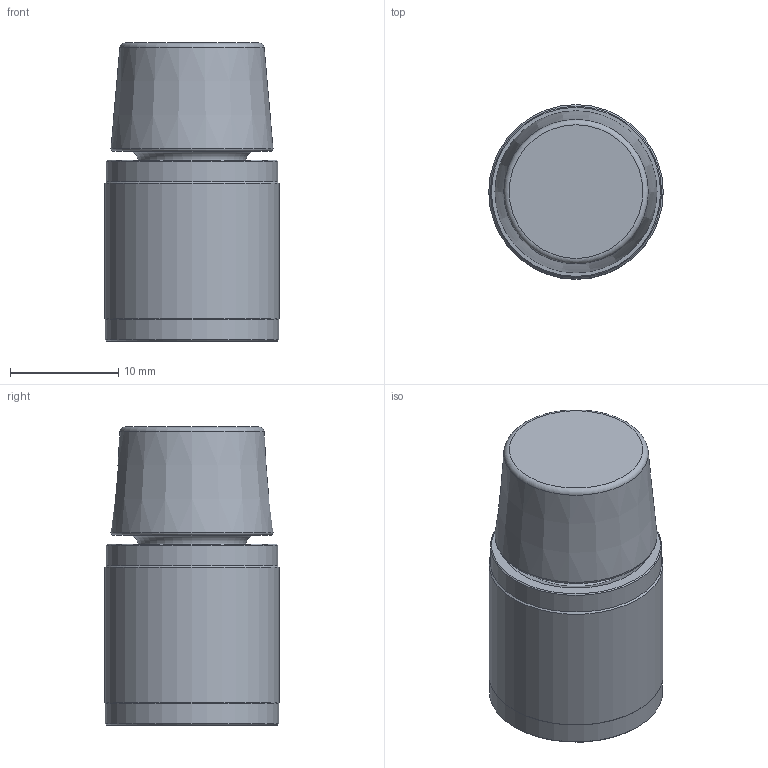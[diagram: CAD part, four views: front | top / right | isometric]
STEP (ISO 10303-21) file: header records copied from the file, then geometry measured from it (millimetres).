
FILE_DESCRIPTION(/* description */ (''),/* implementation_level */ '2;1');
FILE_NAME(/* name */ '\\DATASERVER\data\Flamco\3D-Modellen\Inventor\Flexvent\Flexvent beuchtingsstopper\27755_flexvent_dfa.stp',/* time_stamp */ '2025-12-11T08:22:27+01:00',/* author */ ('kasius'),/* organization */ (''),/* preprocessor_version */ 'ST-DEVELOPER v18.1',/* originating_system */ 'Autodesk Inventor 2021',/* authorisation */ '');
FILE_SCHEMA (('AUTOMOTIVE_DESIGN { 1 0 10303 214 3 1 1 }'));
Length unit declared in the file: millimetre
Products named in the file (1): 27755_flexvent_dfa
Bounding box: 16.1 x 16.1 x 27.5 mm (x, y, z)
Volume: 3280.3 mm3; surface area: 3041.8 mm2
Topology: 2 solids, 2 shells, 43 faces, 113 edges, 82 vertices
Faces by surface type: cone 13, plane 12, cylinder 10, torus 8
Full cylindrical faces by diameter (mm): 7.5 x1, 8 x1, 9.55 x1, 11 x2, 11.6 x1, 12.4 x1, 15.804 x1, 16 x1, 16.1 x1
Entity records: 1484 total; most frequent: DIRECTION 291, CARTESIAN_POINT 239, ORIENTED_EDGE 226, AXIS2_PLACEMENT_3D 134, EDGE_CURVE 113, CIRCLE 90, VERTEX_POINT 82, EDGE_LOOP 53
